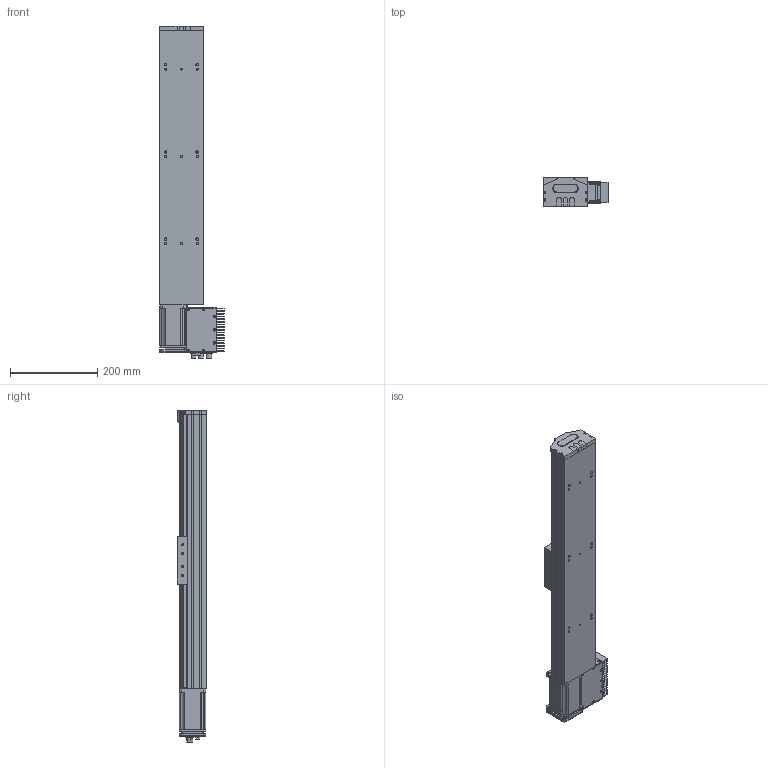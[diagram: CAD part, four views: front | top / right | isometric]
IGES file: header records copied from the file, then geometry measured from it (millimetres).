
Start section: SolidWorks IGES file using analytic representation for surfaces
Global section: file name: C:\Documents and Settings\1EDPI\Mes documents\yanize\S 10 TSH MD\S 10 TSH MD S400.IGS; native system: SolidWorks 2010; preprocessor: SolidWorks 2010; author: 1EDPI; date: 120829.110923; units: millimetre
Bounding box: 148.26 x 66.75 x 761.6 mm (x, y, z)
Surface area: 549173.7 mm2 (no closed solid volume)
Topology: 0 solids, 0 shells, 1719 faces, 23324 edges, 23296 vertices
Faces by surface type: revolution 918, bspline 801
